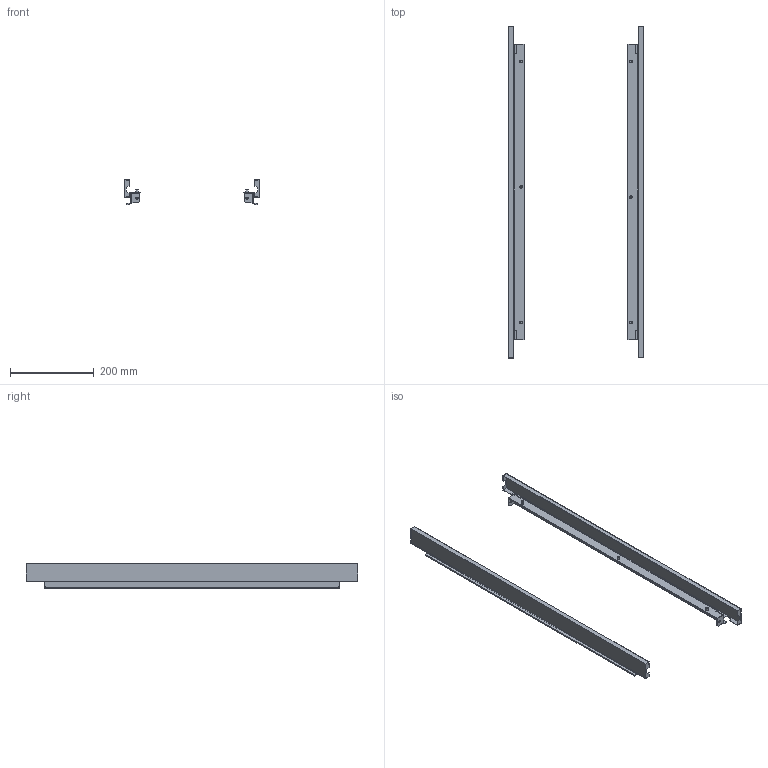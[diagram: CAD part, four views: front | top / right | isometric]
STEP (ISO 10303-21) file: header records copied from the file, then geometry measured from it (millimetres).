
FILE_DESCRIPTION (( 'STEP AP214' ), '1' );
FILE_NAME ('FO-00-PWCK-080 Ôàëüø-ïàíåëü êîìïåíñàöèîííàÿ øèðèíà 800 ìì ñ âûðåçîì (2 øò óïàê).STEP', '2025-07-14T09:03:15', ( '' ), ( '' ), 'SwSTEP 2.0', 'SolidWorks 2023', '' );
FILE_SCHEMA (( 'AUTOMOTIVE_DESIGN' ));
Length unit declared in the file: millimetre
Products named in the file (2): FO-00-PWCK-080 Фальш-панель компенсационная ширина 800 мм с вырезом (2 шт упак); FO-00-PWCK-080 Фальш-панель компенсационная ширина 800 мм с вырезом
Assembly tree (2 placements, depth 2):
  FO-00-PWCK-080 Фальш-панель компенсационная ширина 800 мм с вырезом (2 шт упак)
    FO-00-PWCK-080 Фальш-панель компенсационная ширина 800 мм с вырезом  x2
Bounding box: 323.75 x 795 x 60.1 mm (x, y, z)
Volume: 356054.5 mm3; surface area: 486645.9 mm2
Topology: 10 solids, 10 shells, 378 faces, 990 edges, 644 vertices
Faces by surface type: plane 184, cylinder 146, cone 24, torus 24
Entity records: 5970 total; most frequent: DIRECTION 1065, CARTESIAN_POINT 1011, ORIENTED_EDGE 990, EDGE_CURVE 495, AXIS2_PLACEMENT_3D 376, VERTEX_POINT 322, VECTOR 313, LINE 313
